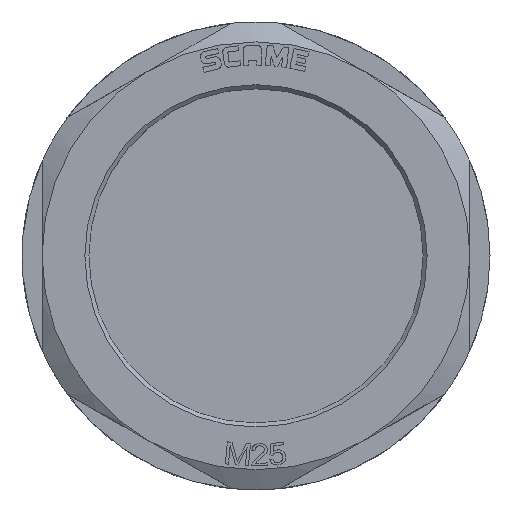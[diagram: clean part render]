
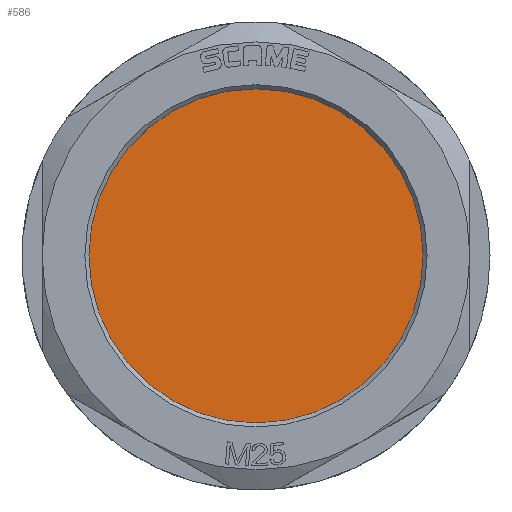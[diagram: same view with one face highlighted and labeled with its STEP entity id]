
A CAD part, top view. The second image highlights one B-rep face of the part: STEP entity #586.
In plain terms, the highlighted planar face has unit normal (0, 0, -1).
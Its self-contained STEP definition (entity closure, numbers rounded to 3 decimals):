
#520=CIRCLE('',#2163,17.5);
#586=ADVANCED_FACE('',(#734),#658,.T.);
#658=PLANE('',#2165);
#734=FACE_OUTER_BOUND('',#827,.T.);
#827=EDGE_LOOP('',(#1251));
#1251=ORIENTED_EDGE('',*,*,#1907,.T.);
#1603=VERTEX_POINT('',#3526);
#1907=EDGE_CURVE('',#1603,#1603,#520,.T.);
#2163=AXIS2_PLACEMENT_3D('',#3525,#2530,#2531);
#2165=AXIS2_PLACEMENT_3D('',#3534,#2540,#2541);
#2530=DIRECTION('',(0.,0.,-1.));
#2531=DIRECTION('',(1.,0.,0.));
#2540=DIRECTION('',(0.,0.,-1.));
#2541=DIRECTION('',(-1.,0.,0.));
#3525=CARTESIAN_POINT('',(0.,0.,-7.));
#3526=CARTESIAN_POINT('',(17.5,0.,-7.));
#3534=CARTESIAN_POINT('',(0.,0.,-7.));
